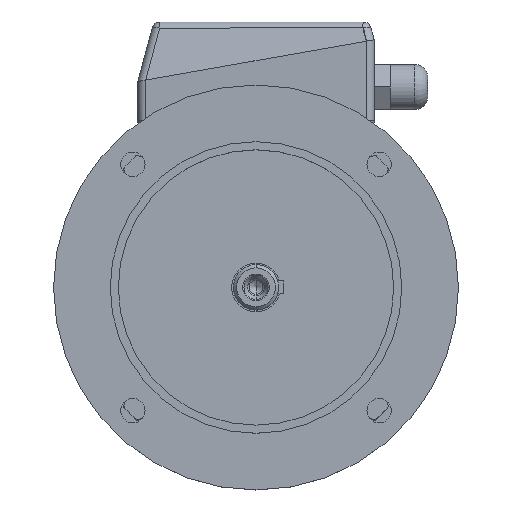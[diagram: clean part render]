
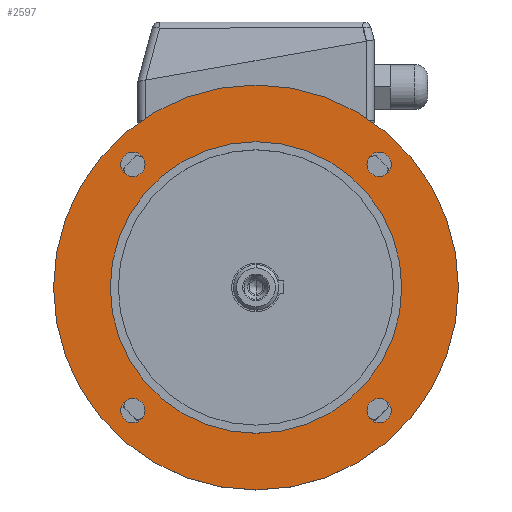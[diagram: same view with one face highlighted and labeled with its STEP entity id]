
A CAD part, top view. The second image highlights one B-rep face of the part: STEP entity #2597.
In plain terms, the highlighted planar face has unit normal (0, 0, 1).
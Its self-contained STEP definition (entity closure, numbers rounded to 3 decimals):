
#154 = CIRCLE ( 'NONE', #155, 7.5 ) ;
#155 = AXIS2_PLACEMENT_3D ( 'NONE', #156, #157, #158 ) ;
#156 = CARTESIAN_POINT ( 'NONE',  ( 76.014, -76.014, 51. ) ) ;
#157 = DIRECTION ( 'NONE',  ( 0., 0., 1. ) ) ;
#158 = DIRECTION ( 'NONE',  ( 1., 0., 0. ) ) ;
#202 = VERTEX_POINT ( 'NONE', #11793 ) ;
#274 = EDGE_LOOP ( 'NONE', ( #13742, #12744 ) ) ;
#462 = EDGE_CURVE ( 'NONE', #202, #1647, #11896, .T. ) ;
#545 = ORIENTED_EDGE ( 'NONE', *, *, #7364, .F. ) ;
#795 = CIRCLE ( 'NONE', #796, 125. ) ;
#796 = AXIS2_PLACEMENT_3D ( 'NONE', #797, #798, #799 ) ;
#797 = CARTESIAN_POINT ( 'NONE',  ( 0., 0., 51. ) ) ;
#798 = DIRECTION ( 'NONE',  ( 0., 0., 1. ) ) ;
#799 = DIRECTION ( 'NONE',  ( 1., 0., 0. ) ) ;
#1131 = EDGE_CURVE ( 'NONE', #7113, #8368, #12284, .T. ) ;
#1488 = CARTESIAN_POINT ( 'NONE',  ( 83.514, 76.014, 51. ) ) ;
#1534 = ORIENTED_EDGE ( 'NONE', *, *, #1131, .F. ) ;
#1601 = CIRCLE ( 'NONE', #1604, 7.5 ) ;
#1604 = AXIS2_PLACEMENT_3D ( 'NONE', #1605, #1606, #1607 ) ;
#1605 = CARTESIAN_POINT ( 'NONE',  ( 76.014, 76.014, 51. ) ) ;
#1606 = DIRECTION ( 'NONE',  ( 0., 0., 1. ) ) ;
#1607 = DIRECTION ( 'NONE',  ( 1., 0., 0. ) ) ;
#1647 = VERTEX_POINT ( 'NONE', #12554 ) ;
#1722 = CIRCLE ( 'NONE', #1723, 90. ) ;
#1723 = AXIS2_PLACEMENT_3D ( 'NONE', #1724, #1725, #1726 ) ;
#1724 = CARTESIAN_POINT ( 'NONE',  ( 0., 0., 51. ) ) ;
#1725 = DIRECTION ( 'NONE',  ( 0., 0., 1. ) ) ;
#1726 = DIRECTION ( 'NONE',  ( 1., 0., 0. ) ) ;
#1817 = CARTESIAN_POINT ( 'NONE',  ( -90., 0., 51. ) ) ;
#1931 = CARTESIAN_POINT ( 'NONE',  ( 90., 0., 51. ) ) ;
#2047 = CIRCLE ( 'NONE', #2048, 90. ) ;
#2048 = AXIS2_PLACEMENT_3D ( 'NONE', #2049, #2050, #2051 ) ;
#2049 = CARTESIAN_POINT ( 'NONE',  ( 0., 0., 51. ) ) ;
#2050 = DIRECTION ( 'NONE',  ( 0., 0., 1. ) ) ;
#2051 = DIRECTION ( 'NONE',  ( 1., 0., 0. ) ) ;
#2176 = VERTEX_POINT ( 'NONE', #12915 ) ;
#2180 = CARTESIAN_POINT ( 'NONE',  ( 68.514, 76.014, 51. ) ) ;
#2313 = EDGE_LOOP ( 'NONE', ( #1534, #545 ) ) ;
#2418 = EDGE_CURVE ( 'NONE', #3443, #2176, #13016, .T. ) ;
#2597 = ADVANCED_FACE ( 'NONE', ( #13118, #13119, #13120, #13121, #13122, #13123 ), #13124, .F. ) ;
#3096 = CIRCLE ( 'NONE', #3097, 7.5 ) ;
#3097 = AXIS2_PLACEMENT_3D ( 'NONE', #3098, #3099, #3100 ) ;
#3098 = CARTESIAN_POINT ( 'NONE',  ( -76.014, -76.014, 51. ) ) ;
#3099 = DIRECTION ( 'NONE',  ( 0., 0., 1. ) ) ;
#3100 = DIRECTION ( 'NONE',  ( 1., 0., 0. ) ) ;
#3443 = VERTEX_POINT ( 'NONE', #13716 ) ;
#3794 = ORIENTED_EDGE ( 'NONE', *, *, #10153, .F. ) ;
#4381 = EDGE_CURVE ( 'NONE', #10087, #10379, #154, .T. ) ;
#4494 = CARTESIAN_POINT ( 'NONE',  ( 83.514, -76.014, 51. ) ) ;
#4622 = CIRCLE ( 'NONE', #4623, 7.5 ) ;
#4623 = AXIS2_PLACEMENT_3D ( 'NONE', #4624, #4631, #4632 ) ;
#4624 = CARTESIAN_POINT ( 'NONE',  ( 76.014, -76.014, 51. ) ) ;
#4631 = DIRECTION ( 'NONE',  ( 0., 0., 1. ) ) ;
#4632 = DIRECTION ( 'NONE',  ( 1., 0., 0. ) ) ;
#4796 = ORIENTED_EDGE ( 'NONE', *, *, #4381, .F. ) ;
#5074 = CIRCLE ( 'NONE', #5075, 7.5 ) ;
#5075 = AXIS2_PLACEMENT_3D ( 'NONE', #5076, #5077, #5078 ) ;
#5076 = CARTESIAN_POINT ( 'NONE',  ( -76.014, 76.014, 51. ) ) ;
#5077 = DIRECTION ( 'NONE',  ( 0., 0., 1. ) ) ;
#5078 = DIRECTION ( 'NONE',  ( 1., 0., 0. ) ) ;
#5151 = CARTESIAN_POINT ( 'NONE',  ( 68.514, -76.014, 51. ) ) ;
#5382 = EDGE_LOOP ( 'NONE', ( #4796, #3794 ) ) ;
#5652 = EDGE_CURVE ( 'NONE', #1647, #202, #795, .T. ) ;
#6068 = ORIENTED_EDGE ( 'NONE', *, *, #5652, .T. ) ;
#6659 = ORIENTED_EDGE ( 'NONE', *, *, #462, .T. ) ;
#7038 = CARTESIAN_POINT ( 'NONE',  ( -68.514, -76.014, 51. ) ) ;
#7113 = VERTEX_POINT ( 'NONE', #1488 ) ;
#7128 = CIRCLE ( 'NONE', #7129, 7.5 ) ;
#7129 = AXIS2_PLACEMENT_3D ( 'NONE', #7133, #7134, #7135 ) ;
#7133 = CARTESIAN_POINT ( 'NONE',  ( -76.014, -76.014, 51. ) ) ;
#7134 = DIRECTION ( 'NONE',  ( 0., 0., 1. ) ) ;
#7135 = DIRECTION ( 'NONE',  ( 1., 0., 0. ) ) ;
#7243 = EDGE_LOOP ( 'NONE', ( #6659, #6068 ) ) ;
#7364 = EDGE_CURVE ( 'NONE', #8368, #7113, #1601, .T. ) ;
#7516 = EDGE_CURVE ( 'NONE', #7682, #7926, #1722, .T. ) ;
#7668 = CARTESIAN_POINT ( 'NONE',  ( -83.514, -76.014, 51. ) ) ;
#7682 = VERTEX_POINT ( 'NONE', #1817 ) ;
#7926 = VERTEX_POINT ( 'NONE', #1931 ) ;
#7927 = ORIENTED_EDGE ( 'NONE', *, *, #7516, .F. ) ;
#8183 = EDGE_CURVE ( 'NONE', #7926, #7682, #2047, .T. ) ;
#8368 = VERTEX_POINT ( 'NONE', #2180 ) ;
#8518 = ORIENTED_EDGE ( 'NONE', *, *, #8183, .F. ) ;
#10087 = VERTEX_POINT ( 'NONE', #4494 ) ;
#10153 = EDGE_CURVE ( 'NONE', #10379, #10087, #4622, .T. ) ;
#10213 = ORIENTED_EDGE ( 'NONE', *, *, #2418, .F. ) ;
#10341 = EDGE_CURVE ( 'NONE', #2176, #3443, #5074, .T. ) ;
#10379 = VERTEX_POINT ( 'NONE', #5151 ) ;
#10447 = ORIENTED_EDGE ( 'NONE', *, *, #10341, .F. ) ;
#10639 = EDGE_LOOP ( 'NONE', ( #10447, #10213 ) ) ;
#11223 = VERTEX_POINT ( 'NONE', #7038 ) ;
#11279 = EDGE_CURVE ( 'NONE', #11504, #11223, #7128, .T. ) ;
#11504 = VERTEX_POINT ( 'NONE', #7668 ) ;
#11793 = CARTESIAN_POINT ( 'NONE',  ( 125., 0., 51. ) ) ;
#11896 = CIRCLE ( 'NONE', #11897, 125. ) ;
#11897 = AXIS2_PLACEMENT_3D ( 'NONE', #11898, #11899, #11900 ) ;
#11898 = CARTESIAN_POINT ( 'NONE',  ( 0., 0., 51. ) ) ;
#11899 = DIRECTION ( 'NONE',  ( 0., 0., 1. ) ) ;
#11900 = DIRECTION ( 'NONE',  ( 1., 0., 0. ) ) ;
#12284 = CIRCLE ( 'NONE', #12285, 7.5 ) ;
#12285 = AXIS2_PLACEMENT_3D ( 'NONE', #12286, #12287, #12288 ) ;
#12286 = CARTESIAN_POINT ( 'NONE',  ( 76.014, 76.014, 51. ) ) ;
#12287 = DIRECTION ( 'NONE',  ( 0., 0., 1. ) ) ;
#12288 = DIRECTION ( 'NONE',  ( 1., 0., 0. ) ) ;
#12453 = EDGE_LOOP ( 'NONE', ( #8518, #7927 ) ) ;
#12554 = CARTESIAN_POINT ( 'NONE',  ( -125., 0., 51. ) ) ;
#12744 = ORIENTED_EDGE ( 'NONE', *, *, #11279, .F. ) ;
#12915 = CARTESIAN_POINT ( 'NONE',  ( -68.514, 76.014, 51. ) ) ;
#13016 = CIRCLE ( 'NONE', #13017, 7.5 ) ;
#13017 = AXIS2_PLACEMENT_3D ( 'NONE', #13018, #13019, #13020 ) ;
#13018 = CARTESIAN_POINT ( 'NONE',  ( -76.014, 76.014, 51. ) ) ;
#13019 = DIRECTION ( 'NONE',  ( 0., 0., 1. ) ) ;
#13020 = DIRECTION ( 'NONE',  ( 1., 0., 0. ) ) ;
#13118 = FACE_BOUND ( 'NONE', #2313, .T. ) ;
#13119 = FACE_BOUND ( 'NONE', #274, .T. ) ;
#13120 = FACE_BOUND ( 'NONE', #12453, .T. ) ;
#13121 = FACE_OUTER_BOUND ( 'NONE', #7243, .T. ) ;
#13122 = FACE_BOUND ( 'NONE', #5382, .T. ) ;
#13123 = FACE_BOUND ( 'NONE', #10639, .T. ) ;
#13124 = PLANE ( 'NONE',  #13125 ) ;
#13125 = AXIS2_PLACEMENT_3D ( 'NONE', #13126, #13127, #13128 ) ;
#13126 = CARTESIAN_POINT ( 'NONE',  ( 0., 125., 51. ) ) ;
#13127 = DIRECTION ( 'NONE',  ( 0., 0., -1. ) ) ;
#13128 = DIRECTION ( 'NONE',  ( -1., 0., 0. ) ) ;
#13324 = EDGE_CURVE ( 'NONE', #11223, #11504, #3096, .T. ) ;
#13716 = CARTESIAN_POINT ( 'NONE',  ( -83.514, 76.014, 51. ) ) ;
#13742 = ORIENTED_EDGE ( 'NONE', *, *, #13324, .F. ) ;
